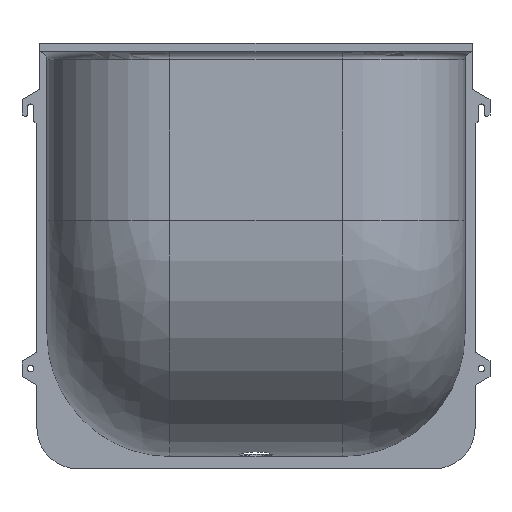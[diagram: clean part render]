
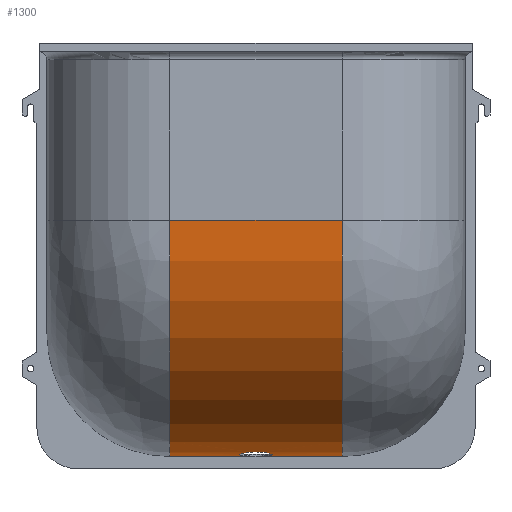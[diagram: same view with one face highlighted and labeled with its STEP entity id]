
A CAD part, top view. The second image highlights one B-rep face of the part: STEP entity #1300.
In plain terms, the highlighted cylindrical face has radius 575 mm (diameter 1150 mm), a partial arc.
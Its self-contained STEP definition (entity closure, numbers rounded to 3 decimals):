
#104=CIRCLE('',#1411,575.);
#106=CIRCLE('',#1414,575.);
#185=LINE('',#2291,#315);
#186=LINE('',#2293,#316);
#315=VECTOR('',#1676,420.);
#316=VECTOR('',#1679,420.);
#381=FACE_BOUND('',#492,.T.);
#416=FACE_OUTER_BOUND('',#491,.T.);
#491=EDGE_LOOP('',(#1036,#1037,#1038,#1039));
#492=EDGE_LOOP('',(#1040));
#538=B_SPLINE_CURVE_WITH_KNOTS('',3,(#1908,#1909,#1910,#1911,#1912,#1913,
#1914,#1915,#1916,#1917,#1918,#1919,#1920,#1921,#1922,#1923,#1924,#1925,
#1926,#1927,#1928,#1929,#1930,#1931,#1932,#1933,#1934,#1935,#1936,#1937,
#1938,#1939,#1940,#1941,#1942,#1943,#1944,#1945,#1946,#1947,#1948,#1949,
#1950,#1951,#1952,#1953,#1954,#1955,#1956,#1957,#1958,#1959,#1960,#1961,
#1962,#1963,#1964,#1965,#1966,#1967,#1968,#1969,#1970,#1971,#1972,#1973),
 .UNSPECIFIED.,.T.,.F.,(4,2,2,2,2,2,2,2,2,2,2,2,2,2,2,2,2,2,2,2,2,2,2,2,
2,2,2,2,2,2,2,2,4),(0.,0.754,1.507,2.261,
3.014,3.777,4.539,5.301,6.063,
6.82,7.577,8.334,9.091,9.844,
10.597,11.351,12.104,12.857,13.61,
14.363,15.116,15.873,16.63,17.387,
18.144,18.906,19.669,20.431,21.193,
21.946,22.7,23.454,24.207),
 .UNSPECIFIED.);
#546=VERTEX_POINT('',#1907);
#631=VERTEX_POINT('',#2233);
#634=VERTEX_POINT('',#2251);
#635=VERTEX_POINT('',#2286);
#636=VERTEX_POINT('',#2290);
#672=EDGE_CURVE('',#546,#546,#538,.T.);
#787=EDGE_CURVE('',#634,#635,#104,.T.);
#789=EDGE_CURVE('',#634,#636,#185,.T.);
#790=EDGE_CURVE('',#631,#636,#106,.T.);
#791=EDGE_CURVE('',#635,#631,#186,.T.);
#1036=ORIENTED_EDGE('',*,*,#789,.T.);
#1037=ORIENTED_EDGE('',*,*,#790,.F.);
#1038=ORIENTED_EDGE('',*,*,#791,.F.);
#1039=ORIENTED_EDGE('',*,*,#787,.F.);
#1040=ORIENTED_EDGE('',*,*,#672,.T.);
#1258=CYLINDRICAL_SURFACE('',#1413,575.);
#1300=ADVANCED_FACE('',(#416,#381),#1258,.T.);
#1411=AXIS2_PLACEMENT_3D('',#2287,#1670,#1671);
#1413=AXIS2_PLACEMENT_3D('',#2289,#1674,#1675);
#1414=AXIS2_PLACEMENT_3D('',#2292,#1677,#1678);
#1670=DIRECTION('center_axis',(-1.,0.,0.));
#1671=DIRECTION('ref_axis',(0.,-0.707,0.707));
#1674=DIRECTION('center_axis',(1.,0.,0.));
#1675=DIRECTION('ref_axis',(0.,0.,1.));
#1676=DIRECTION('',(1.,0.,0.));
#1677=DIRECTION('center_axis',(1.,0.,0.));
#1678=DIRECTION('ref_axis',(0.,-0.707,0.707));
#1679=DIRECTION('',(1.,0.,0.));
#1907=CARTESIAN_POINT('',(0.,-996.38,110.));
#1908=CARTESIAN_POINT('Ctrl Pts',(0.,-996.38,110.));
#1909=CARTESIAN_POINT('Ctrl Pts',(2.512,-996.38,110.));
#1910=CARTESIAN_POINT('Ctrl Pts',(5.108,-996.427,109.76));
#1911=CARTESIAN_POINT('Ctrl Pts',(10.269,-996.623,108.749));
#1912=CARTESIAN_POINT('Ctrl Pts',(12.833,-996.771,107.979));
#1913=CARTESIAN_POINT('Ctrl Pts',(17.748,-997.156,105.945));
#1914=CARTESIAN_POINT('Ctrl Pts',(20.103,-997.393,104.681));
#1915=CARTESIAN_POINT('Ctrl Pts',(24.454,-997.925,101.762));
#1916=CARTESIAN_POINT('Ctrl Pts',(26.452,-998.221,100.109));
#1917=CARTESIAN_POINT('Ctrl Pts',(30.006,-998.835,96.571));
#1918=CARTESIAN_POINT('Ctrl Pts',(31.681,-999.176,94.561));
#1919=CARTESIAN_POINT('Ctrl Pts',(34.634,-999.888,90.185));
#1920=CARTESIAN_POINT('Ctrl Pts',(35.911,-1000.26,87.819));
#1921=CARTESIAN_POINT('Ctrl Pts',(37.963,-1001.001,82.882));
#1922=CARTESIAN_POINT('Ctrl Pts',(38.739,-1001.37,80.308));
#1923=CARTESIAN_POINT('Ctrl Pts',(39.758,-1002.077,75.127));
#1924=CARTESIAN_POINT('Ctrl Pts',(40.,-1002.414,72.522));
#1925=CARTESIAN_POINT('Ctrl Pts',(40.,-1003.03,67.495));
#1926=CARTESIAN_POINT('Ctrl Pts',(39.761,-1003.331,64.902));
#1927=CARTESIAN_POINT('Ctrl Pts',(38.751,-1003.894,59.739));
#1928=CARTESIAN_POINT('Ctrl Pts',(37.98,-1004.156,57.169));
#1929=CARTESIAN_POINT('Ctrl Pts',(35.938,-1004.628,52.236));
#1930=CARTESIAN_POINT('Ctrl Pts',(34.666,-1004.838,49.87));
#1931=CARTESIAN_POINT('Ctrl Pts',(31.722,-1005.202,45.491));
#1932=CARTESIAN_POINT('Ctrl Pts',(30.05,-1005.357,43.479));
#1933=CARTESIAN_POINT('Ctrl Pts',(26.493,-1005.615,39.926));
#1934=CARTESIAN_POINT('Ctrl Pts',(24.488,-1005.727,38.263));
#1935=CARTESIAN_POINT('Ctrl Pts',(20.123,-1005.915,35.331));
#1936=CARTESIAN_POINT('Ctrl Pts',(17.762,-1005.991,34.061));
#1937=CARTESIAN_POINT('Ctrl Pts',(12.838,-1006.109,32.022));
#1938=CARTESIAN_POINT('Ctrl Pts',(10.27,-1006.15,31.251));
#1939=CARTESIAN_POINT('Ctrl Pts',(5.106,-1006.204,30.24));
#1940=CARTESIAN_POINT('Ctrl Pts',(2.51,-1006.217,30.));
#1941=CARTESIAN_POINT('Ctrl Pts',(-2.51,-1006.217,30.));
#1942=CARTESIAN_POINT('Ctrl Pts',(-5.106,-1006.204,30.24));
#1943=CARTESIAN_POINT('Ctrl Pts',(-10.27,-1006.15,31.251));
#1944=CARTESIAN_POINT('Ctrl Pts',(-12.838,-1006.109,32.022));
#1945=CARTESIAN_POINT('Ctrl Pts',(-17.762,-1005.991,34.061));
#1946=CARTESIAN_POINT('Ctrl Pts',(-20.123,-1005.915,35.331));
#1947=CARTESIAN_POINT('Ctrl Pts',(-24.488,-1005.727,38.263));
#1948=CARTESIAN_POINT('Ctrl Pts',(-26.493,-1005.615,39.926));
#1949=CARTESIAN_POINT('Ctrl Pts',(-30.05,-1005.357,43.479));
#1950=CARTESIAN_POINT('Ctrl Pts',(-31.722,-1005.202,45.491));
#1951=CARTESIAN_POINT('Ctrl Pts',(-34.666,-1004.838,49.87));
#1952=CARTESIAN_POINT('Ctrl Pts',(-35.938,-1004.628,52.236));
#1953=CARTESIAN_POINT('Ctrl Pts',(-37.98,-1004.156,57.169));
#1954=CARTESIAN_POINT('Ctrl Pts',(-38.751,-1003.894,59.739));
#1955=CARTESIAN_POINT('Ctrl Pts',(-39.761,-1003.331,64.902));
#1956=CARTESIAN_POINT('Ctrl Pts',(-40.,-1003.03,67.495));
#1957=CARTESIAN_POINT('Ctrl Pts',(-40.,-1002.414,72.522));
#1958=CARTESIAN_POINT('Ctrl Pts',(-39.758,-1002.077,75.127));
#1959=CARTESIAN_POINT('Ctrl Pts',(-38.739,-1001.37,80.308));
#1960=CARTESIAN_POINT('Ctrl Pts',(-37.963,-1001.001,82.882));
#1961=CARTESIAN_POINT('Ctrl Pts',(-35.911,-1000.26,87.819));
#1962=CARTESIAN_POINT('Ctrl Pts',(-34.634,-999.888,90.185));
#1963=CARTESIAN_POINT('Ctrl Pts',(-31.681,-999.176,94.561));
#1964=CARTESIAN_POINT('Ctrl Pts',(-30.006,-998.835,96.571));
#1965=CARTESIAN_POINT('Ctrl Pts',(-26.452,-998.221,100.109));
#1966=CARTESIAN_POINT('Ctrl Pts',(-24.454,-997.925,101.762));
#1967=CARTESIAN_POINT('Ctrl Pts',(-20.103,-997.393,104.681));
#1968=CARTESIAN_POINT('Ctrl Pts',(-17.748,-997.156,105.945));
#1969=CARTESIAN_POINT('Ctrl Pts',(-12.833,-996.771,107.979));
#1970=CARTESIAN_POINT('Ctrl Pts',(-10.269,-996.623,108.749));
#1971=CARTESIAN_POINT('Ctrl Pts',(-5.108,-996.427,109.76));
#1972=CARTESIAN_POINT('Ctrl Pts',(-2.512,-996.38,110.));
#1973=CARTESIAN_POINT('Ctrl Pts',(0.,-996.38,110.));
#2233=CARTESIAN_POINT('',(210.,-432.,575.));
#2251=CARTESIAN_POINT('',(-210.,-1006.986,4.));
#2286=CARTESIAN_POINT('',(-210.,-432.,575.));
#2287=CARTESIAN_POINT('Origin',(-210.,-432.,0.));
#2289=CARTESIAN_POINT('Origin',(0.,-432.,0.));
#2290=CARTESIAN_POINT('',(210.,-1006.986,4.));
#2291=CARTESIAN_POINT('',(0.,-1006.986,4.));
#2292=CARTESIAN_POINT('Origin',(210.,-432.,0.));
#2293=CARTESIAN_POINT('',(0.,-432.,575.));
